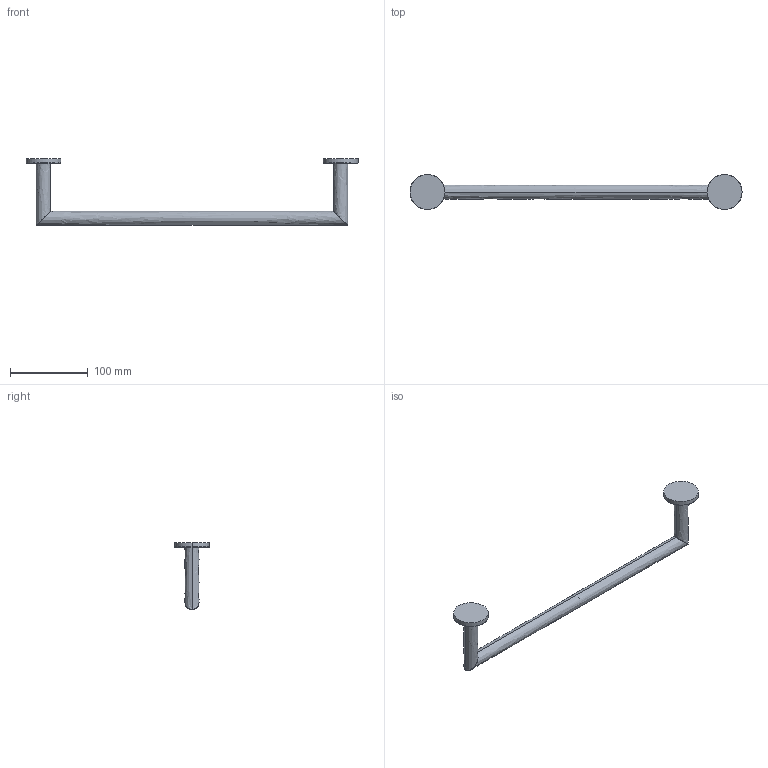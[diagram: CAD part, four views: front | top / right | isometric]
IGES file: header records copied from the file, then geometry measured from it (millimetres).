
Start section:  PTC IGES file: 45306.igs
Global section: file name: 45306.igs; native system: Creo Parametric by PTC Inc.; preprocessor: 2018100; author: carloff; organization: Unknown; date: 20201210.080613; units: millimetre
Bounding box: 426.7 x 44.7 x 86 mm (x, y, z)
Surface area: 37042.8 mm2 (no closed solid volume)
Topology: 0 solids, 0 shells, 26 faces, 100 edges, 100 vertices
Faces by surface type: revolution 14, bspline 12
